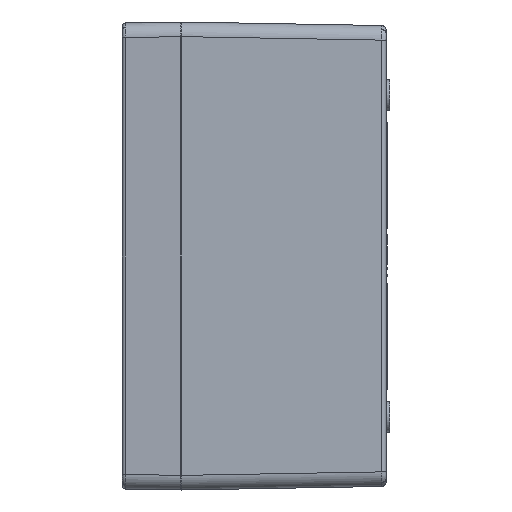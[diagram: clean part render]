
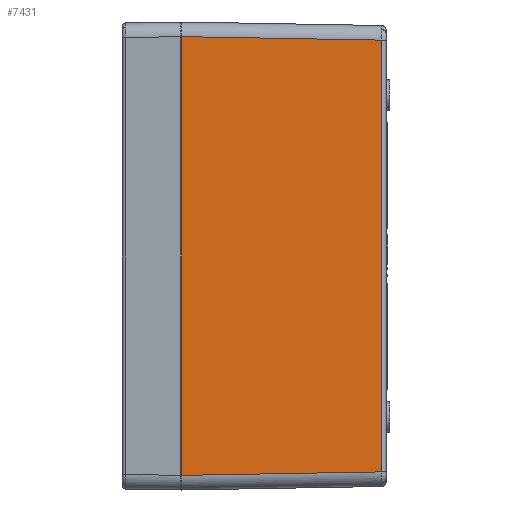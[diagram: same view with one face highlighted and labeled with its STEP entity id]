
A CAD part, left-side view. The second image highlights one B-rep face of the part: STEP entity #7431.
In plain terms, the highlighted planar face has unit normal (-1, -0.018, 0).
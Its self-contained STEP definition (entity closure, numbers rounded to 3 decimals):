
#163 = ORIENTED_EDGE ( 'NONE', *, *, #19302, .T. ) ;
#235 = CARTESIAN_POINT ( 'NONE',  ( -180., 0., 80. ) ) ;
#962 = VECTOR ( 'NONE', #23214, 1000. ) ;
#1093 = CARTESIAN_POINT ( 'NONE',  ( -178.804, -68.526, 73.805 ) ) ;
#1214 = VECTOR ( 'NONE', #16522, 1000. ) ;
#1350 = VERTEX_POINT ( 'NONE', #10922 ) ;
#1475 = DIRECTION ( 'NONE',  ( 0., 0., 1. ) ) ;
#2635 = EDGE_CURVE ( 'NONE', #1350, #18432, #6012, .T. ) ;
#2652 = CARTESIAN_POINT ( 'NONE',  ( -178.804, -68.526, -73.805 ) ) ;
#3003 = CARTESIAN_POINT ( 'NONE',  ( -180., 0., 75.001 ) ) ;
#3334 = AXIS2_PLACEMENT_3D ( 'NONE', #235, #3785, #17841 ) ;
#3785 = DIRECTION ( 'NONE',  ( -1., -0.017, 0. ) ) ;
#5153 = DIRECTION ( 'NONE',  ( -0.017, 1., 0.017 ) ) ;
#6012 = LINE ( 'NONE', #20076, #25700 ) ;
#6927 = VERTEX_POINT ( 'NONE', #2652 ) ;
#6940 = CARTESIAN_POINT ( 'NONE',  ( -178.804, -68.526, 80. ) ) ;
#7431 = ADVANCED_FACE ( 'NONE', ( #18223 ), #9960, .T. ) ;
#8563 = ORIENTED_EDGE ( 'NONE', *, *, #15011, .T. ) ;
#8961 = ORIENTED_EDGE ( 'NONE', *, *, #2635, .F. ) ;
#9867 = EDGE_LOOP ( 'NONE', ( #17326, #163, #8563, #8961 ) ) ;
#9960 = PLANE ( 'NONE',  #3334 ) ;
#10475 = LINE ( 'NONE', #18486, #1214 ) ;
#10684 = VERTEX_POINT ( 'NONE', #1093 ) ;
#10894 = LINE ( 'NONE', #6940, #962 ) ;
#10922 = CARTESIAN_POINT ( 'NONE',  ( -180., 0., -75.001 ) ) ;
#13352 = EDGE_CURVE ( 'NONE', #1350, #6927, #10475, .T. ) ;
#15011 = EDGE_CURVE ( 'NONE', #10684, #18432, #15409, .T. ) ;
#15409 = LINE ( 'NONE', #23147, #23404 ) ;
#16522 = DIRECTION ( 'NONE',  ( 0.017, -1., 0.017 ) ) ;
#17326 = ORIENTED_EDGE ( 'NONE', *, *, #13352, .T. ) ;
#17841 = DIRECTION ( 'NONE',  ( 0.017, -1., 0. ) ) ;
#18223 = FACE_OUTER_BOUND ( 'NONE', #9867, .T. ) ;
#18432 = VERTEX_POINT ( 'NONE', #3003 ) ;
#18486 = CARTESIAN_POINT ( 'NONE',  ( -179.953, -2.704, -74.954 ) ) ;
#19302 = EDGE_CURVE ( 'NONE', #6927, #10684, #10894, .T. ) ;
#20076 = CARTESIAN_POINT ( 'NONE',  ( -180., 0., 80. ) ) ;
#23147 = CARTESIAN_POINT ( 'NONE',  ( -180.002, 0.087, 75.002 ) ) ;
#23214 = DIRECTION ( 'NONE',  ( 0., 0., 1. ) ) ;
#23404 = VECTOR ( 'NONE', #5153, 1000. ) ;
#25700 = VECTOR ( 'NONE', #1475, 1000. ) ;
